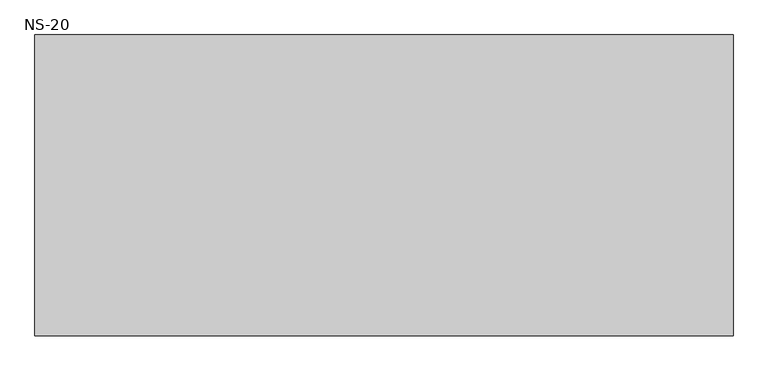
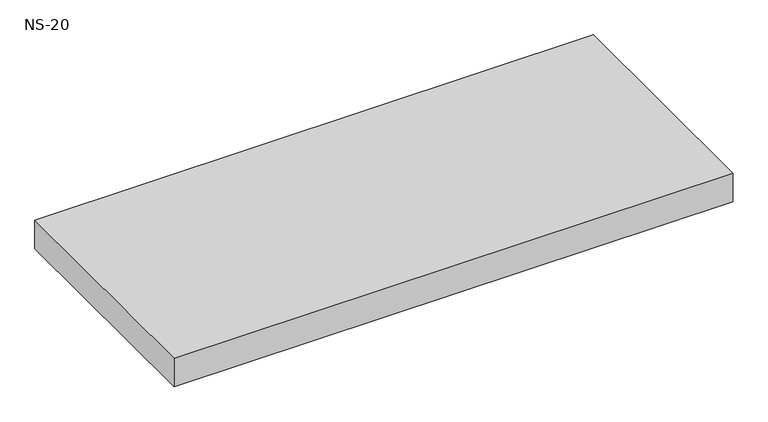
"""IFC4 building model written with IfcOpenShell, lengths in millimetres: unitary equipment geometry, ME_UN_lipumax-PF-H-DA_ACO : NS-20."""

from ifc_helpers import new_model, si_unit, frame, origin, place, context, project, spatial, polyline, outline, extrude, source, transform, mapped, element, save


def ns_20_1f6e9076(model_context):
    return source(origin(), model_context, "Body", "SweptSolid", [
        extrude(outline(polyline([(2320.0, 1000.0), (2320.0, -1000.0), (-2320.0, -1000.0), (-2320.0, 1000.0), (2320.0, 1000.0)])), frame((0.0, 0.0, -500.0), z_axis=(0.0, 0.0, 1.0), x_axis=(1.0, 0.0, 0.0)), (0.0, 0.0, 1.0), 250.0),
    ])


if __name__ == "__main__":
    model = new_model("IFC4")
    model_context = context("Model", 3, world=origin())
    ifc_project = project(units=[si_unit("LENGTHUNIT", "METRE", prefix="MILLI")], contexts=[model_context])
    site = spatial("IfcSite", under=ifc_project)
    building = spatial("IfcBuilding", under=site)
    placement = place(None, origin())
    ns_20_shape = ns_20_1f6e9076(model_context)
    element("IfcUnitaryEquipment", 1, ObjectType="ME_UN_lipumax-PF-H-DA_ACO : NS-20", at=placement, inside=building, context=model_context, shape_type="MappedRepresentation", body=[
        mapped(ns_20_shape, transform((0.0, 0.0, 0.0), x_axis=(1.0, 0.0, 0.0), y_axis=(0.0, 1.0, 0.0), z_axis=(0.0, 0.0, 1.0))),
    ])
    save(model, "model.ifc")
